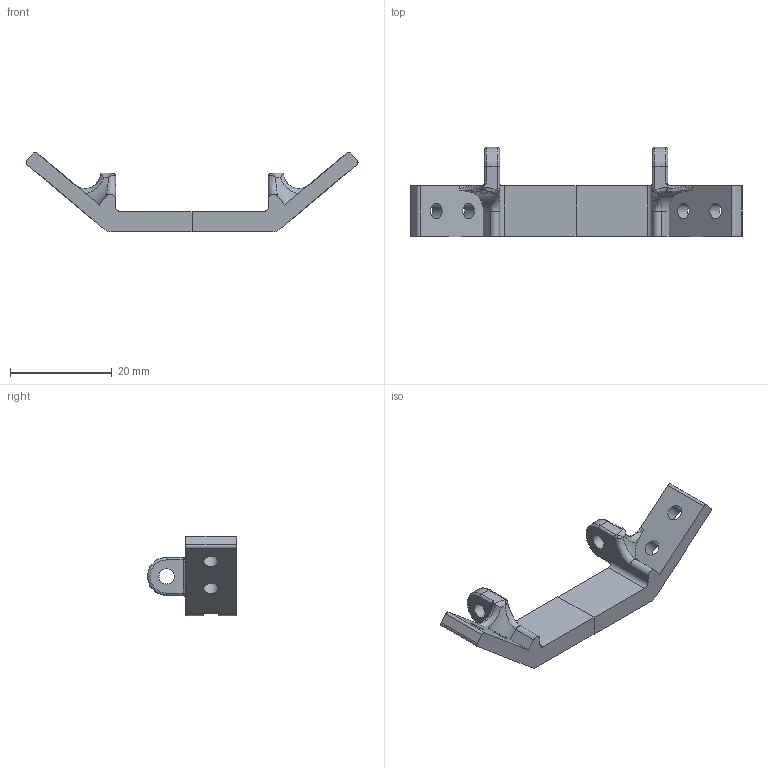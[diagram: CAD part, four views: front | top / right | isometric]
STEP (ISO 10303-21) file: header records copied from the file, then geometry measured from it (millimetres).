
FILE_DESCRIPTION(/* description */ (''),/* implementation_level */ '2;1');
FILE_NAME(/* name */ 'D:\3D Printing & CAD Work\Customers\My self\Drone 3.0\Thingiverce\Assembly1.stp',/* time_stamp */ '2018-11-19T19:01:27+02:00',/* author */ ('Damien'),/* organization */ (''),/* preprocessor_version */ 'ST-DEVELOPER v17',/* originating_system */ 'Autodesk Inventor 2018',/* authorisation */ '');
FILE_SCHEMA (('AUTOMOTIVE_DESIGN { 1 0 10303 214 3 1 1 }'));
Length unit declared in the file: millimetre
Products named in the file (3): Assembly1; Part2; Part2_MIR1
Assembly tree (2 placements, depth 2):
  Assembly1
    Part2
    Part2_MIR1
Bounding box: 65.19 x 17.5 x 15.68 mm (x, y, z)
Volume: 2891.5 mm3; surface area: 2637.7 mm2
Topology: 2 solids, 2 shells, 92 faces, 242 edges, 152 vertices
Faces by surface type: cylinder 38, plane 34, torus 10, bspline 10
Full cylindrical faces by diameter (mm): 3 x6
Entity records: 3749 total; most frequent: CARTESIAN_POINT 1363, DIRECTION 484, ORIENTED_EDGE 480, EDGE_CURVE 240, AXIS2_PLACEMENT_3D 181, VERTEX_POINT 152, LINE 122, VECTOR 122
